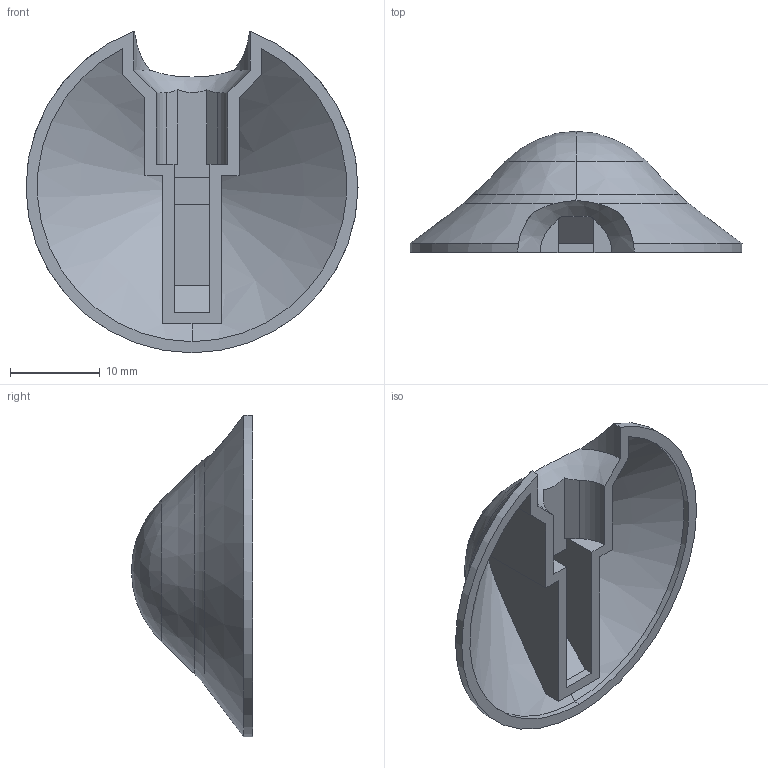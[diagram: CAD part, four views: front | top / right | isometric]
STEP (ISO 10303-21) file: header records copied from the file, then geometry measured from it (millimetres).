
FILE_DESCRIPTION (( 'STEP AP203' ), '1' );
FILE_NAME ('head.step', '2023-08-15T08:05:30', ( '' ), ( '' ), 'SwSTEP 2.0', 'SolidWorks 2020', '' );
FILE_SCHEMA (( 'CONFIG_CONTROL_DESIGN' ));
Length unit declared in the file: millimetre
Products named in the file (1): head
Bounding box: 37 x 13.5 x 35.85 mm (x, y, z)
Volume: 2877.8 mm3; surface area: 3397.5 mm2
Topology: 1 solids, 1 shells, 46 faces, 121 edges, 78 vertices
Faces by surface type: plane 27, cylinder 8, cone 7, sphere 2, torus 2
Entity records: 1579 total; most frequent: CARTESIAN_POINT 389, ORIENTED_EDGE 242, DIRECTION 216, EDGE_CURVE 121, VERTEX_POINT 78, LINE 74, VECTOR 74, AXIS2_PLACEMENT_3D 71
